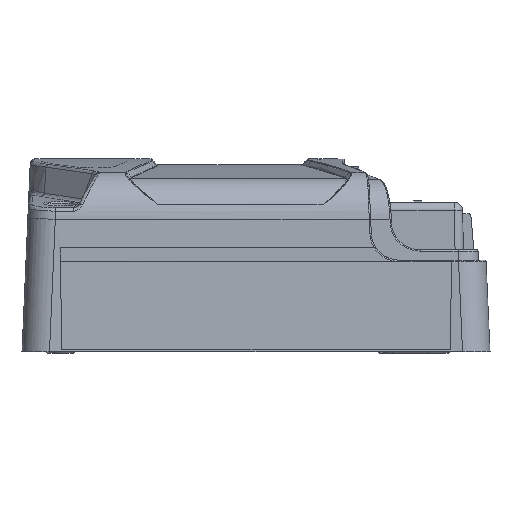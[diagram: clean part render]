
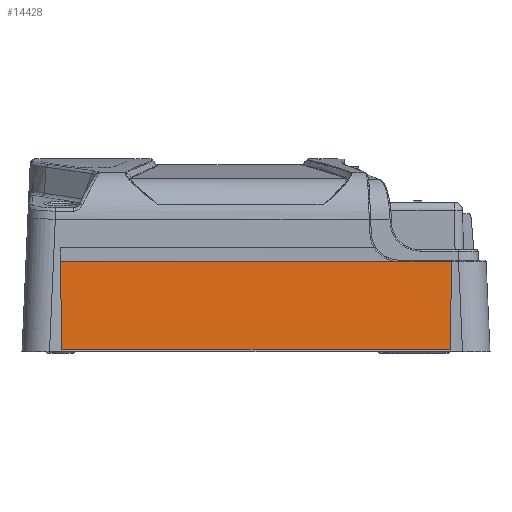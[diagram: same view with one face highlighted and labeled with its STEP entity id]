
A CAD part, left-side view. The second image highlights one B-rep face of the part: STEP entity #14428.
In plain terms, the highlighted planar face has unit normal (-0.999, 0, 0.044).
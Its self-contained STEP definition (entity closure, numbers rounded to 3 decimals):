
#159=B_SPLINE_CURVE_WITH_KNOTS('',3,(#18394,#18395,#18396,#18397),
 .UNSPECIFIED.,.F.,.F.,(4,4),(0.,1.),.UNSPECIFIED.);
#160=B_SPLINE_CURVE_WITH_KNOTS('',3,(#18399,#18400,#18401,#18402),
 .UNSPECIFIED.,.F.,.F.,(4,4),(0.,1.),.UNSPECIFIED.);
#161=B_SPLINE_CURVE_WITH_KNOTS('',3,(#18404,#18405,#18406,#18407),
 .UNSPECIFIED.,.F.,.F.,(4,4),(0.,1.),.UNSPECIFIED.);
#655=PLANE('',#15401);
#1193=LINE('',#25653,#1695);
#1200=LINE('',#26202,#1702);
#1201=LINE('',#26219,#1703);
#1695=VECTOR('',#16629,1000.);
#1702=VECTOR('',#16712,1000.);
#1703=VECTOR('',#16735,1000.);
#4745=ORIENTED_EDGE('',*,*,#5255,.T.);
#4746=ORIENTED_EDGE('',*,*,#5254,.T.);
#4747=ORIENTED_EDGE('',*,*,#5253,.T.);
#4748=ORIENTED_EDGE('',*,*,#5943,.F.);
#4749=ORIENTED_EDGE('',*,*,#5986,.F.);
#4750=ORIENTED_EDGE('',*,*,#5992,.F.);
#5253=EDGE_CURVE('',#6703,#6702,#159,.T.);
#5254=EDGE_CURVE('',#6704,#6703,#160,.T.);
#5255=EDGE_CURVE('',#6705,#6704,#161,.T.);
#5943=EDGE_CURVE('',#7119,#6702,#1193,.F.);
#5986=EDGE_CURVE('',#7135,#7119,#1200,.F.);
#5992=EDGE_CURVE('',#6705,#7135,#1201,.F.);
#6702=VERTEX_POINT('',#18393);
#6703=VERTEX_POINT('',#18398);
#6704=VERTEX_POINT('',#18403);
#6705=VERTEX_POINT('',#18408);
#7119=VERTEX_POINT('',#25652);
#7135=VERTEX_POINT('',#26183);
#8605=EDGE_LOOP('',(#4745,#4746,#4747,#4748,#4749,#4750));
#9306=FACE_BOUND('',#8605,.T.);
#14428=ADVANCED_FACE('',(#9306),#655,.F.);
#15401=AXIS2_PLACEMENT_3D('',#28727,#17702,#17703);
#16629=DIRECTION('',(0.,1.,0.));
#16712=DIRECTION('',(0.,1.,0.));
#16735=DIRECTION('',(0.,1.,0.));
#17702=DIRECTION('',(0.999,0.,-0.044));
#17703=DIRECTION('',(-0.044,0.,-0.999));
#18393=CARTESIAN_POINT('',(-98.482,13.927,32.767));
#18394=CARTESIAN_POINT('',(-99.965,14.486,0.799));
#18395=CARTESIAN_POINT('',(-99.5,14.3,11.457));
#18396=CARTESIAN_POINT('',(-99.034,14.114,22.114));
#18397=CARTESIAN_POINT('',(-98.569,13.928,32.771));
#18398=CARTESIAN_POINT('',(-99.878,14.486,0.795));
#18399=CARTESIAN_POINT('',(-99.965,155.514,0.799));
#18400=CARTESIAN_POINT('',(-99.965,108.505,0.799));
#18401=CARTESIAN_POINT('',(-99.965,61.495,0.799));
#18402=CARTESIAN_POINT('',(-99.965,14.486,0.799));
#18403=CARTESIAN_POINT('',(-99.878,155.514,0.795));
#18404=CARTESIAN_POINT('',(-98.569,156.072,32.77));
#18405=CARTESIAN_POINT('',(-99.035,155.886,22.113));
#18406=CARTESIAN_POINT('',(-99.5,155.7,11.456));
#18407=CARTESIAN_POINT('',(-99.965,155.514,0.799));
#18408=CARTESIAN_POINT('',(-98.482,156.072,32.766));
#25652=CARTESIAN_POINT('',(-98.394,33.132,32.761));
#25653=CARTESIAN_POINT('',(-98.394,0.,32.761));
#26183=CARTESIAN_POINT('',(-98.394,33.51,32.761));
#26202=CARTESIAN_POINT('',(-98.394,0.,32.761));
#26219=CARTESIAN_POINT('',(-98.394,0.,32.761));
#28727=CARTESIAN_POINT('',(-99.635,0.,4.35));
